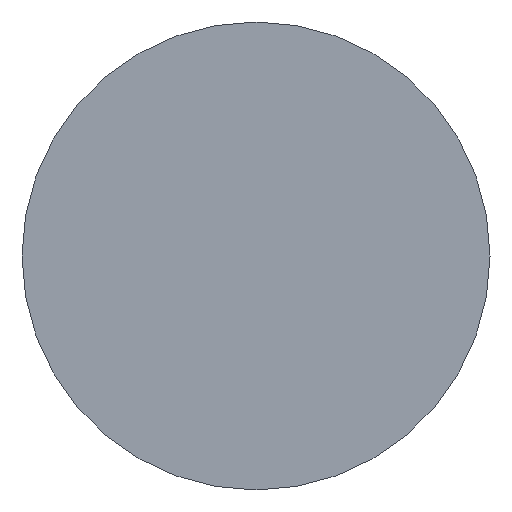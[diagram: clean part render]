
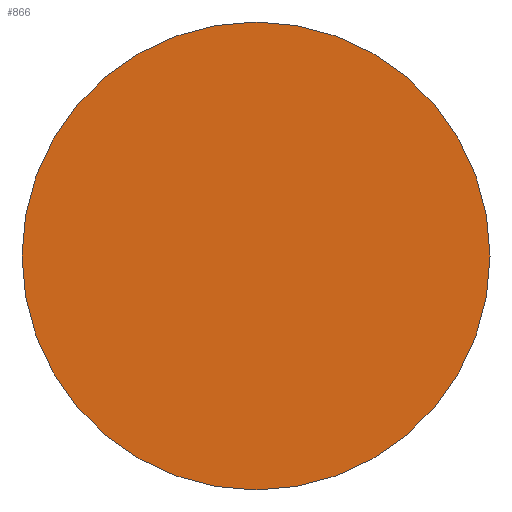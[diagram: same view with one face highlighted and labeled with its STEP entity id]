
A CAD part, left-side view. The second image highlights one B-rep face of the part: STEP entity #866.
In plain terms, the highlighted planar face has unit normal (-1, 0, 0).
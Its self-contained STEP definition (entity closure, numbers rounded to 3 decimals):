
#819=CARTESIAN_POINT('',(-421.291,-514.026,-56.025));
#820=VERTEX_POINT('',#819);
#827=CARTESIAN_POINT('',(-421.291,-449.026,-56.025));
#828=VERTEX_POINT('',#827);
#829=CARTESIAN_POINT('',(-421.291,-481.526,-56.025));
#830=DIRECTION('',(-1.0,0.0,0.0));
#831=DIRECTION('',(0.0,-1.0,0.0));
#832=AXIS2_PLACEMENT_3D('',#829,#830,#831);
#833=CIRCLE('',#832,32.5);
#834=EDGE_CURVE('',#828,#820,#833,.T.);
#836=CARTESIAN_POINT('',(-421.291,-481.526,-56.025));
#837=DIRECTION('',(-1.0,0.0,0.0));
#838=DIRECTION('',(0.0,-1.0,0.0));
#839=AXIS2_PLACEMENT_3D('',#836,#837,#838);
#840=CIRCLE('',#839,32.5);
#841=EDGE_CURVE('',#820,#828,#840,.T.);
#857=CARTESIAN_POINT('',(-421.291,-442.526,-95.025));
#858=DIRECTION('',(-1.0,0.0,0.0));
#859=DIRECTION('',(0.0,-1.0,0.0));
#860=AXIS2_PLACEMENT_3D('',#857,#858,#859);
#861=PLANE('',#860);
#862=ORIENTED_EDGE('',*,*,#841,.T.);
#863=ORIENTED_EDGE('',*,*,#834,.T.);
#864=EDGE_LOOP('',(#862,#863));
#865=FACE_OUTER_BOUND('',#864,.T.);
#866=ADVANCED_FACE('',(#865),#861,.T.);
